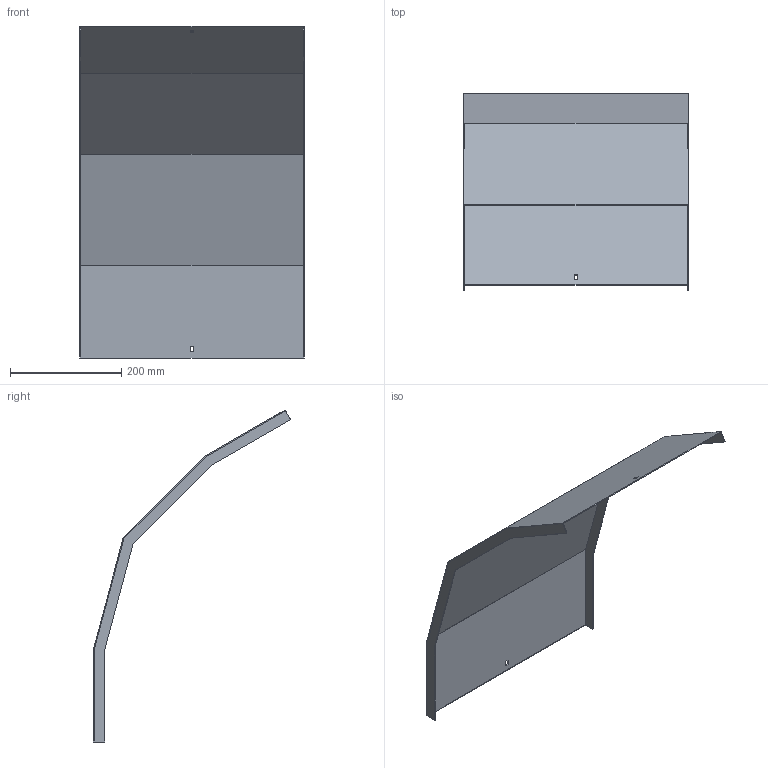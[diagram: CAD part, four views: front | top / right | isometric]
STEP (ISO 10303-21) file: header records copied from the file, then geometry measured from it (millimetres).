
FILE_DESCRIPTION (( 'STEP AP214' ), '1' );
FILE_NAME ('A2_41N3J400.step', '2025-02-21T10:40:37', ( '' ), ( '' ), 'SwSTEP 2.0', 'SolidWorks 2023', '' );
FILE_SCHEMA (( 'AUTOMOTIVE_DESIGN' ));
Length unit declared in the file: millimetre
Products named in the file (1): A2_41N3J400
Bounding box: 403 x 354.25 x 596.25 mm (x, y, z)
Volume: 491894 mm3; surface area: 659452 mm2
Topology: 1 solids, 1 shells, 30 faces, 84 edges, 56 vertices
Faces by surface type: plane 30
Entity records: 979 total; most frequent: CARTESIAN_POINT 171, ORIENTED_EDGE 168, DIRECTION 146, VECTOR 84, LINE 84, EDGE_CURVE 84, VERTEX_POINT 56, EDGE_LOOP 34
